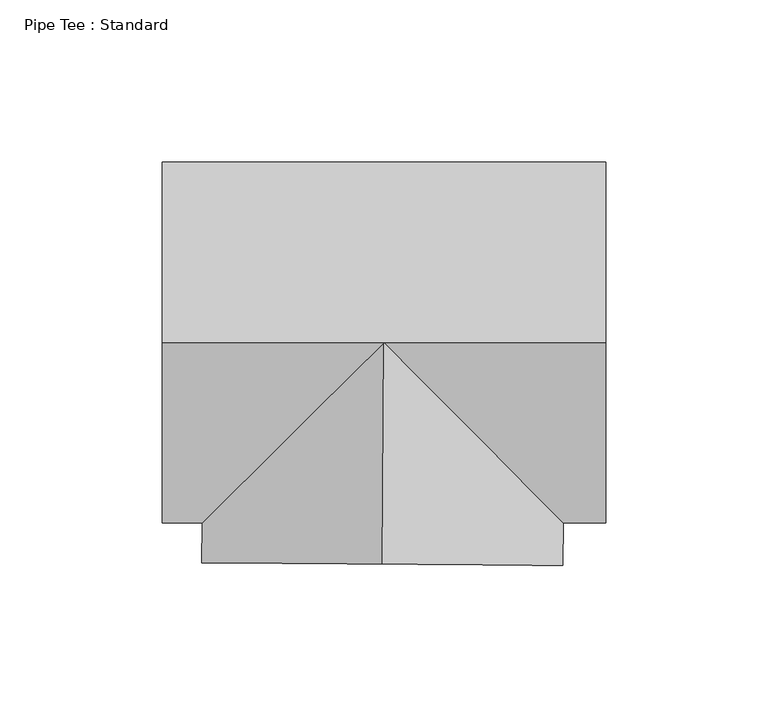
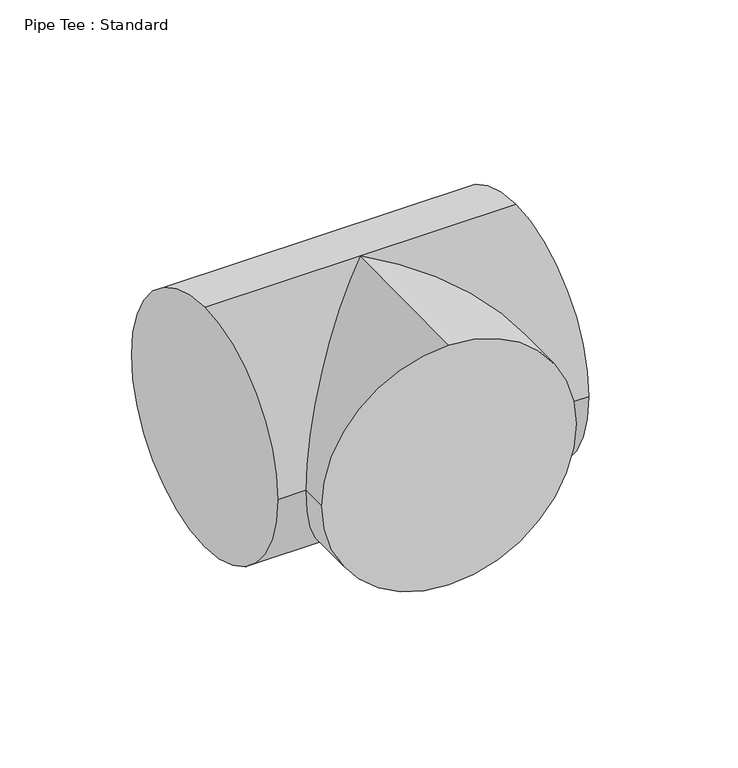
"""IFC4 building model written with IfcOpenShell, lengths in millimetres: pipe fitting geometry, Pipe Tee : Standard."""

from ifc_helpers import new_model, si_unit, frame, origin, place, context, project, spatial, circle_curve, ellipse_curve, source, transform, mapped, element, save
from ifc_brep_helpers import plane_surface, cylinder_surface, advanced_brep


def pipe_tee_standard_88342a58(model_context):
    return source(origin(), model_context, "Body", "AdvancedBrep", [
        advanced_brep(
        [(-68.2625, 0.0, 55.5625), (-68.2625, 55.5625, 0.0), (-68.2625, 0.0, -55.5625), (-68.2625, -55.5625, 0.0), (68.2625, 0.0, 55.5625), (68.2625, -55.5625, 0.0), (68.2625, 0.0, -55.5625), (68.2625, 55.5625, 0.0), (0.0, 0.0, 55.5625), (0.0, 0.0, -55.5625), (-55.9649211, -55.5625, 0.0), (55.1629725, -55.5625, 0.0), (-0.4926127, -68.2607225, 55.5625), (-56.0536659, -67.8597587, 0.0), (-0.4926127, -68.2607225, -55.5625), (55.0684405, -68.6616864, 0.0)],
        [
            (0, 1, circle_curve(frame((-68.2625, 0.0, 0.0), z_axis=(-1.0, 0.0, 0.0), x_axis=(0.0, 1.0, 0.0)), 55.5625)),
            (1, 2, circle_curve(frame((-68.2625, 0.0, 0.0), z_axis=(-1.0, 0.0, 0.0), x_axis=(0.0, 1.0, 0.0)), 55.5625)),
            (2, 3, circle_curve(frame((-68.2625, 0.0, 0.0), z_axis=(-1.0, 0.0, 0.0), x_axis=(0.0, 1.0, 0.0)), 55.5625)),
            (3, 0, circle_curve(frame((-68.2625, 0.0, 0.0), z_axis=(-1.0, 0.0, 0.0), x_axis=(0.0, 1.0, 0.0)), 55.5625)),
            (4, 5, circle_curve(frame((68.2625, 0.0, 0.0), z_axis=(1.0, 0.0, 0.0), x_axis=(0.0, 1.0, 0.0)), 55.5625)),
            (5, 6, circle_curve(frame((68.2625, 0.0, 0.0), z_axis=(1.0, 0.0, 0.0), x_axis=(0.0, 1.0, 0.0)), 55.5625)),
            (6, 7, circle_curve(frame((68.2625, 0.0, 0.0), z_axis=(1.0, 0.0, 0.0), x_axis=(0.0, 1.0, 0.0)), 55.5625)),
            (7, 4, circle_curve(frame((68.2625, 0.0, 0.0), z_axis=(1.0, 0.0, 0.0), x_axis=(0.0, 1.0, 0.0)), 55.5625)),
            (0, 8),
            (8, 4),
            (7, 1),
            (6, 9),
            (9, 2),
            (9, 10, ellipse_curve(frame((0.0, 0.0, 0.0), z_axis=(-0.7045507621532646, 0.7096535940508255, 0.0), x_axis=(-0.7096535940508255, -0.7045507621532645, 0.0)), 78.8623091, 55.5625)),
            (10, 3),
            (5, 11),
            (11, 9, ellipse_curve(frame((0.0, 0.0, 0.0), z_axis=(0.7096535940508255, 0.7045507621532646, 0.0), x_axis=(-0.7045507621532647, 0.7096535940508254, 0.0)), 78.2952422, 55.5625)),
            (10, 8, ellipse_curve(frame((0.0, 0.0, 0.0), z_axis=(-0.7045507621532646, 0.7096535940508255, 0.0), x_axis=(-0.7096535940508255, -0.7045507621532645, 0.0)), 78.8623091, 55.5625)),
            (8, 11, ellipse_curve(frame((0.0, 0.0, 0.0), z_axis=(0.7096535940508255, 0.7045507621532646, 0.0), x_axis=(-0.7045507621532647, 0.7096535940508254, 0.0)), 78.2952422, 55.5625)),
            (12, 13, circle_curve(frame((-0.4926127, -68.2607225, 0.0), z_axis=(-0.007216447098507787, -0.9999739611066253, 0.0), x_axis=(0.9999739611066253, -0.007216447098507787, 0.0)), 55.5625)),
            (13, 14, circle_curve(frame((-0.4926127, -68.2607225, 0.0), z_axis=(-0.007216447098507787, -0.9999739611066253, 0.0), x_axis=(0.9999739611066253, -0.007216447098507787, 0.0)), 55.5625)),
            (14, 15, circle_curve(frame((-0.4926127, -68.2607225, 0.0), z_axis=(-0.007216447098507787, -0.9999739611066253, 0.0), x_axis=(0.9999739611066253, -0.007216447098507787, 0.0)), 55.5625)),
            (15, 12, circle_curve(frame((-0.4926127, -68.2607225, 0.0), z_axis=(-0.007216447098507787, -0.9999739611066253, 0.0), x_axis=(0.9999739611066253, -0.007216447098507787, 0.0)), 55.5625)),
            (15, 11),
            (8, 12),
            (14, 9),
            (13, 10),
        ],
        [
            plane_surface(frame((-68.2625, 0.0, 0.0), z_axis=(-1.0, 0.0, 0.0), x_axis=(0.0, 0.0, 1.0))),
            plane_surface(frame((68.2625, 0.0, 0.0), z_axis=(1.0, 0.0, 0.0), x_axis=(0.0, 0.0, 1.0))),
            cylinder_surface(frame((-68.2625, 0.0, 0.0), z_axis=(-1.0, 0.0, 0.0), x_axis=(0.0, 1.0, 0.0)), 55.5625),
            plane_surface(frame((-0.4926127, -68.2607225, 0.0), z_axis=(-0.007216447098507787, -0.9999739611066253, 0.0), x_axis=(0.0, 0.0, 1.0))),
            cylinder_surface(frame((0.0, 0.0, 0.0), z_axis=(0.007216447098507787, 0.9999739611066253, 0.0), x_axis=(0.9999739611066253, -0.007216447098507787, 0.0)), 55.5625),
        ],
        [
            (0, [[1, 2, 3, 4]]),
            (1, [[5, 6, 7, 8]]),
            (2, [[-1, 9, 10, -8, 11]]),
            (2, [[-2, -11, -7, 12, 13]]),
            (2, [[-3, -13, 14, 15]]),
            (2, [[-6, 16, 17, -12]]),
            (2, [[-4, -15, 18, -9]]),
            (2, [[-5, -10, 19, -16]]),
            (3, [[20, 21, 22, 23]]),
            (4, [[-23, 24, -19, 25]]),
            (4, [[-22, 26, -17, -24]]),
            (4, [[-21, 27, -14, -26]]),
            (4, [[-20, -25, -18, -27]]),
        ],
    ),
        advanced_brep(
        [(-68.2625, 0.0, 55.5625), (-68.2625, 55.5625, 0.0), (-68.2625, 0.0, -55.5625), (-68.2625, -55.5625, 0.0), (68.2625, 0.0, 55.5625), (68.2625, -55.5625, 0.0), (68.2625, 0.0, -55.5625), (68.2625, 55.5625, 0.0), (0.0, 0.0, 55.5625), (0.0, 0.0, -55.5625), (-55.9649211, -55.5625, 0.0), (55.1629725, -55.5625, 0.0), (-0.4926127, -68.2607225, 55.5625), (-56.0536659, -67.8597587, 0.0), (-0.4926127, -68.2607225, -55.5625), (55.0684405, -68.6616864, 0.0)],
        [
            (0, 1, circle_curve(frame((-68.2625, 0.0, 0.0), z_axis=(-1.0, 0.0, 0.0), x_axis=(0.0, 1.0, 0.0)), 55.5625)),
            (1, 2, circle_curve(frame((-68.2625, 0.0, 0.0), z_axis=(-1.0, 0.0, 0.0), x_axis=(0.0, 1.0, 0.0)), 55.5625)),
            (2, 3, circle_curve(frame((-68.2625, 0.0, 0.0), z_axis=(-1.0, 0.0, 0.0), x_axis=(0.0, 1.0, 0.0)), 55.5625)),
            (3, 0, circle_curve(frame((-68.2625, 0.0, 0.0), z_axis=(-1.0, 0.0, 0.0), x_axis=(0.0, 1.0, 0.0)), 55.5625)),
            (4, 5, circle_curve(frame((68.2625, 0.0, 0.0), z_axis=(1.0, 0.0, 0.0), x_axis=(0.0, 1.0, 0.0)), 55.5625)),
            (5, 6, circle_curve(frame((68.2625, 0.0, 0.0), z_axis=(1.0, 0.0, 0.0), x_axis=(0.0, 1.0, 0.0)), 55.5625)),
            (6, 7, circle_curve(frame((68.2625, 0.0, 0.0), z_axis=(1.0, 0.0, 0.0), x_axis=(0.0, 1.0, 0.0)), 55.5625)),
            (7, 4, circle_curve(frame((68.2625, 0.0, 0.0), z_axis=(1.0, 0.0, 0.0), x_axis=(0.0, 1.0, 0.0)), 55.5625)),
            (0, 8),
            (8, 4),
            (7, 1),
            (6, 9),
            (9, 2),
            (9, 10, ellipse_curve(frame((0.0, 0.0, 0.0), z_axis=(-0.7045507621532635, 0.7096535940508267, 0.0), x_axis=(-0.7096535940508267, -0.7045507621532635, 0.0)), 78.8623091, 55.5625)),
            (10, 3),
            (5, 11),
            (11, 9, ellipse_curve(frame((0.0, 0.0, 0.0), z_axis=(0.7096535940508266, 0.7045507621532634, 0.0), x_axis=(-0.7045507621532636, 0.7096535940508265, 0.0)), 78.2952422, 55.5625)),
            (10, 8, ellipse_curve(frame((0.0, 0.0, 0.0), z_axis=(-0.7045507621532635, 0.7096535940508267, 0.0), x_axis=(-0.7096535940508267, -0.7045507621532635, 0.0)), 78.8623091, 55.5625)),
            (8, 11, ellipse_curve(frame((0.0, 0.0, 0.0), z_axis=(0.7096535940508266, 0.7045507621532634, 0.0), x_axis=(-0.7045507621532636, 0.7096535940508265, 0.0)), 78.2952422, 55.5625)),
            (12, 13, circle_curve(frame((-0.4926127, -68.2607225, 0.0), z_axis=(-0.007216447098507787, -0.9999739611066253, 0.0), x_axis=(0.9999739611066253, -0.007216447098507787, 0.0)), 55.5625)),
            (13, 14, circle_curve(frame((-0.4926127, -68.2607225, 0.0), z_axis=(-0.007216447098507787, -0.9999739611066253, 0.0), x_axis=(0.9999739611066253, -0.007216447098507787, 0.0)), 55.5625)),
            (14, 15, circle_curve(frame((-0.4926127, -68.2607225, 0.0), z_axis=(-0.007216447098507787, -0.9999739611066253, 0.0), x_axis=(0.9999739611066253, -0.007216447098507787, 0.0)), 55.5625)),
            (15, 12, circle_curve(frame((-0.4926127, -68.2607225, 0.0), z_axis=(-0.007216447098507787, -0.9999739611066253, 0.0), x_axis=(0.9999739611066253, -0.007216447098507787, 0.0)), 55.5625)),
            (15, 11),
            (8, 12),
            (14, 9),
            (13, 10),
        ],
        [
            plane_surface(frame((-68.2625, 0.0, 0.0), z_axis=(-1.0, 0.0, 0.0), x_axis=(0.0, 0.0, 1.0))),
            plane_surface(frame((68.2625, 0.0, 0.0), z_axis=(1.0, 0.0, 0.0), x_axis=(0.0, 0.0, 1.0))),
            cylinder_surface(frame((-68.2625, 0.0, 0.0), z_axis=(-1.0, 0.0, 0.0), x_axis=(0.0, 1.0, 0.0)), 55.5625),
            plane_surface(frame((-0.4926127, -68.2607225, 0.0), z_axis=(-0.007216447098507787, -0.9999739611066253, 0.0), x_axis=(0.0, 0.0, 1.0))),
            cylinder_surface(frame((0.0, 0.0, 0.0), z_axis=(0.007216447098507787, 0.9999739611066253, 0.0), x_axis=(0.9999739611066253, -0.007216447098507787, 0.0)), 55.5625),
        ],
        [
            (0, [[1, 2, 3, 4]]),
            (1, [[5, 6, 7, 8]]),
            (2, [[-1, 9, 10, -8, 11]]),
            (2, [[-2, -11, -7, 12, 13]]),
            (2, [[-3, -13, 14, 15]]),
            (2, [[-6, 16, 17, -12]]),
            (2, [[-4, -15, 18, -9]]),
            (2, [[-5, -10, 19, -16]]),
            (3, [[20, 21, 22, 23]]),
            (4, [[-23, 24, -19, 25]]),
            (4, [[-22, 26, -17, -24]]),
            (4, [[-21, 27, -14, -26]]),
            (4, [[-20, -25, -18, -27]]),
        ],
    ),
    ])


if __name__ == "__main__":
    model = new_model("IFC4")
    model_context = context("Model", 3, world=origin())
    ifc_project = project(units=[si_unit("LENGTHUNIT", "METRE", prefix="MILLI")], contexts=[model_context])
    site = spatial("IfcSite", under=ifc_project)
    building = spatial("IfcBuilding", under=site)
    placement = place(None, origin())
    pipe_tee_standard_shape = pipe_tee_standard_88342a58(model_context)
    element("IfcPipeFitting", 1, ObjectType="Pipe Tee : Standard", at=placement, inside=building, context=model_context, shape_type="MappedRepresentation", body=[
        mapped(pipe_tee_standard_shape, transform((0.0, 0.0, 0.0), x_axis=(1.0, 0.0, 0.0), y_axis=(0.0, 1.0, 0.0), z_axis=(0.0, 0.0, 1.0))),
    ])
    save(model, "model.ifc")
